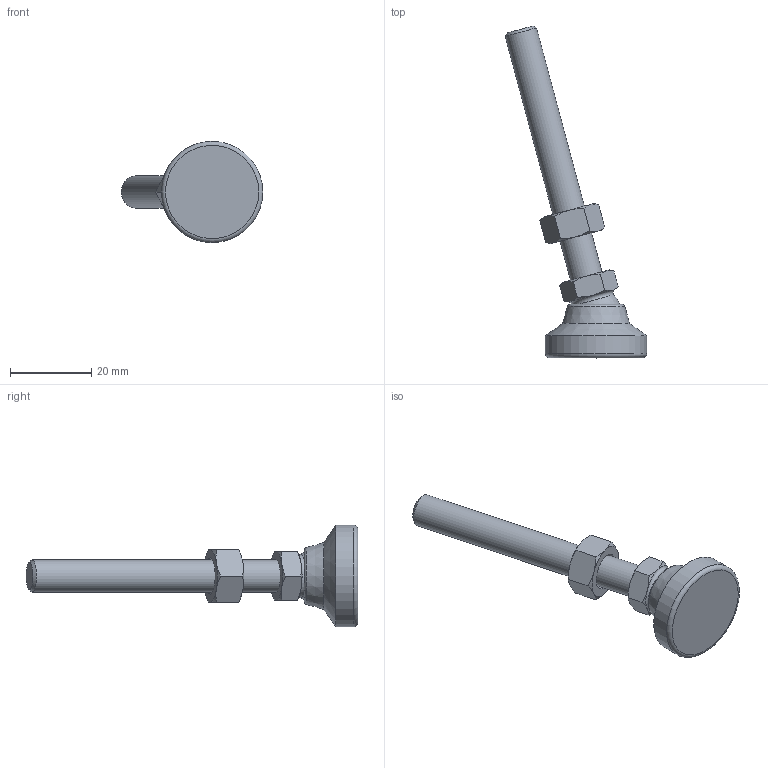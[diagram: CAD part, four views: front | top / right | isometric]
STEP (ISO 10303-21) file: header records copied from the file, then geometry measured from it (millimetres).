
FILE_DESCRIPTION( ( 'STEP AP214' ), ' ' );
FILE_NAME( 'O:/ganter_2015/teil_2/2_5/gn343_2/gn343_2_kre/Levelling foot with threaded stud GN 343.2-25-M8-63-KRE-(15).stp', '2015-10-26T09:18:16', ( '' ), ( '' ), ' ', 'PARTsolutions', ' ' );
FILE_SCHEMA( ( 'AUTOMOTIVE_DESIGN { 1 0 10303 214 1 1 1 1 }' ) );
Length unit declared in the file: millimetre
Products named in the file (4): Levelling foot with threaded stud GN 343.2-25-M8-63-KRE-(15); _Levelling foot with threaded stud GN 343.2-25-M8-63-KRE-(15)_foot; _Levelling foot with threaded stud GN 343.2-25-M8-63-KRE-(15)_screw; _Levelling foot with threaded stud GN 343.2-25-M8-63-KRE-(15)_nut
Assembly tree (3 placements, depth 2):
  Levelling foot with threaded stud GN 343.2-25-M8-63-KRE-(15)
    _Levelling foot with threaded stud GN 343.2-25-M8-63-KRE-(15)_foot
    _Levelling foot with threaded stud GN 343.2-25-M8-63-KRE-(15)_screw
    _Levelling foot with threaded stud GN 343.2-25-M8-63-KRE-(15)_nut
Bounding box: 34.93 x 81.89 x 25 mm (x, y, z)
Volume: 9299.5 mm3; surface area: 4796.3 mm2
Topology: 3 solids, 3 shells, 50 faces, 107 edges, 63 vertices
Faces by surface type: cone 24, plane 18, torus 3, cylinder 3, sphere 2
Full cylindrical faces by diameter (mm): 6.647 x1, 8 x1, 25 x1
Entity records: 1858 total; most frequent: CARTESIAN_POINT 452, DIRECTION 188, ORIENTED_EDGE 176, AXIS2_PLACEMENT_3D 88, EDGE_CURVE 88, EDGE_LOOP 66, VERTEX_POINT 60, FACE_OUTER_BOUND 56
